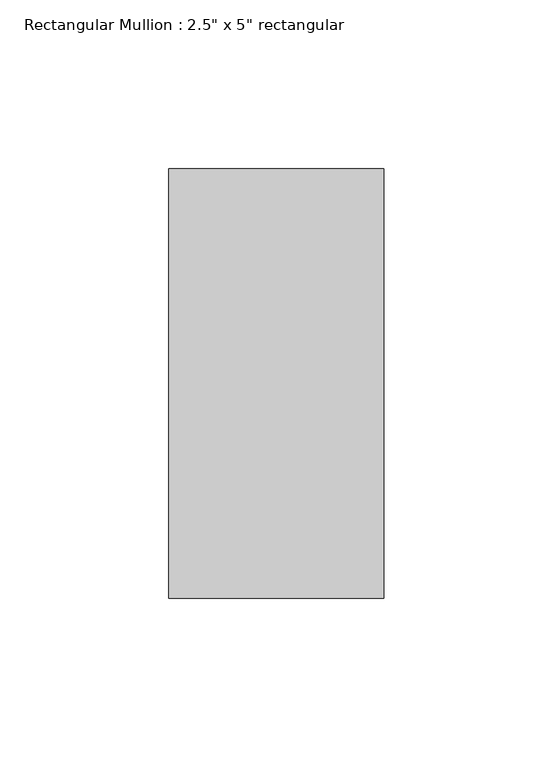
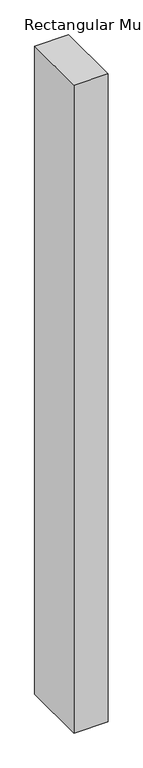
"""IFC4 building model written with IfcOpenShell, lengths in millimetres: member geometry."""

from ifc_helpers import new_model, si_unit, frame, origin, place, context, project, spatial, polyline, outline, extrude, source, transform, mapped, element, save


def member_2b3f0a2a(model_context):
    return source(origin(), model_context, "Body", "SweptSolid", [
        extrude(outline(polyline([(31.75, 63.5), (31.75, -63.5), (-31.75, -63.5), (-31.75, 63.5), (31.75, 63.5)])), frame((0.0, 0.0, -1276.3500001), z_axis=(0.0, 0.0, 1.0), x_axis=(1.0, 0.0, 0.0)), (0.0, 0.0, 1.0), 1276.3500001),
    ])


if __name__ == "__main__":
    model = new_model("IFC4")
    model_context = context("Model", 3, world=origin())
    ifc_project = project(units=[si_unit("LENGTHUNIT", "METRE", prefix="MILLI")], contexts=[model_context])
    site = spatial("IfcSite", under=ifc_project)
    building = spatial("IfcBuilding", under=site)
    placement = place(None, origin())
    member_shape = member_2b3f0a2a(model_context)
    element("IfcMember", 1, ObjectType="Rectangular Mullion : 2.5\" x 5\" rectangular", at=placement, inside=building, context=model_context, shape_type="MappedRepresentation", body=[
        mapped(member_shape, transform((0.0, 0.0, 0.0), x_axis=(1.0, 0.0, 0.0), y_axis=(0.0, 1.0, 0.0), z_axis=(0.0, 0.0, 1.0))),
    ])
    save(model, "model.ifc")
